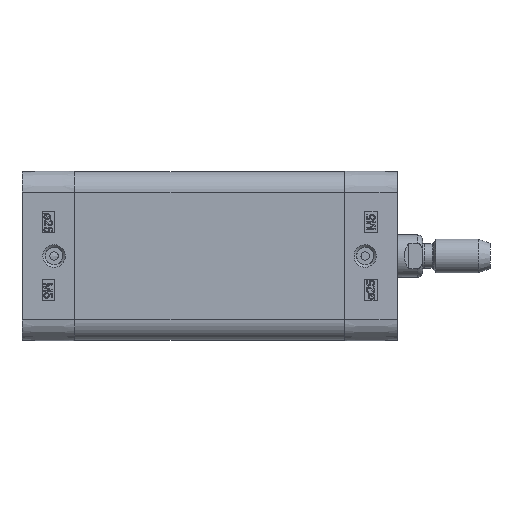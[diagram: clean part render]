
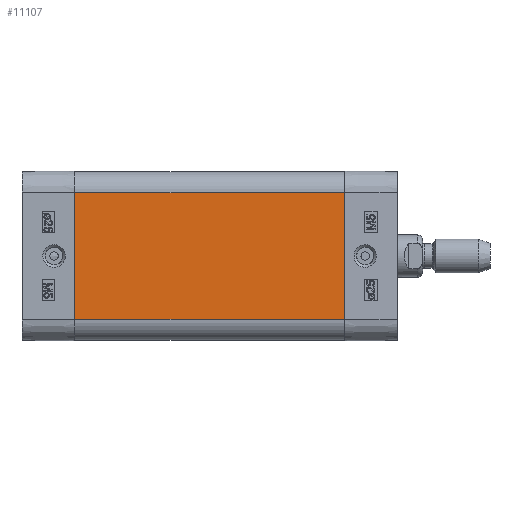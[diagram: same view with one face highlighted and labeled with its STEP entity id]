
A CAD part, left-side view. The second image highlights one B-rep face of the part: STEP entity #11107.
In plain terms, the highlighted planar face has unit normal (-1, 0, 0).
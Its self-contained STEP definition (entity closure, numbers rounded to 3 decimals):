
#8889=CARTESIAN_POINT('',(-20.,-64.0,15.0));
#8890=VERTEX_POINT('',#8889);
#8898=CARTESIAN_POINT('',(-20.,-64.0,-15.));
#8899=VERTEX_POINT('',#8898);
#8900=CARTESIAN_POINT('',(-20.,-64.0,-15.));
#8901=DIRECTION('',(0.0,0.0,1.0));
#8902=VECTOR('',#8901,30.);
#8903=LINE('',#8900,#8902);
#8904=EDGE_CURVE('',#8899,#8890,#8903,.T.);
#10035=CARTESIAN_POINT('',(-20.,0.0,15.0));
#10036=VERTEX_POINT('',#10035);
#10044=CARTESIAN_POINT('',(-20.,0.0,15.0));
#10045=DIRECTION('',(0.0,-1.0,0.0));
#10046=VECTOR('',#10045,64.0);
#10047=LINE('',#10044,#10046);
#10048=EDGE_CURVE('',#10036,#8890,#10047,.T.);
#11072=CARTESIAN_POINT('',(-20.,0.0,-15.));
#11073=VERTEX_POINT('',#11072);
#11074=CARTESIAN_POINT('',(-20.,0.0,-15.));
#11075=DIRECTION('',(0.0,-1.0,0.0));
#11076=VECTOR('',#11075,64.0);
#11077=LINE('',#11074,#11076);
#11078=EDGE_CURVE('',#11073,#8899,#11077,.T.);
#11091=CARTESIAN_POINT('',(-20.,0.0,-15.));
#11092=DIRECTION('',(-1.0,0.0,0.0));
#11093=DIRECTION('',(0.0,0.0,1.0));
#11094=AXIS2_PLACEMENT_3D('',#11091,#11092,#11093);
#11095=PLANE('',#11094);
#11096=ORIENTED_EDGE('',*,*,#8904,.T.);
#11097=ORIENTED_EDGE('',*,*,#10048,.F.);
#11098=CARTESIAN_POINT('',(-20.,0.0,-15.));
#11099=DIRECTION('',(0.0,0.0,1.0));
#11100=VECTOR('',#11099,30.);
#11101=LINE('',#11098,#11100);
#11102=EDGE_CURVE('',#11073,#10036,#11101,.T.);
#11103=ORIENTED_EDGE('',*,*,#11102,.F.);
#11104=ORIENTED_EDGE('',*,*,#11078,.T.);
#11105=EDGE_LOOP('',(#11096,#11097,#11103,#11104));
#11106=FACE_OUTER_BOUND('',#11105,.T.);
#11107=ADVANCED_FACE('',(#11106),#11095,.T.);
